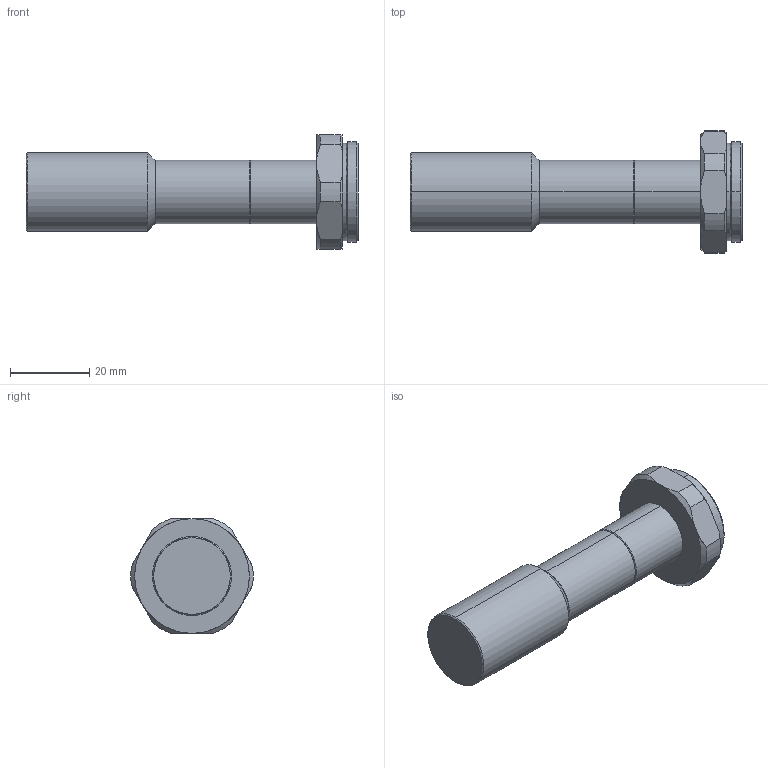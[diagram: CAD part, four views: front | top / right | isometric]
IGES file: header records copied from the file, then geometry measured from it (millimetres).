
Start section: SolidWorks IGES file using analytic representation for surfaces
Global section: file name: C:\IGES\TS-APT08X65_Drawing_M0250D-A00100.IGS; native system: SolidWorks 2021; preprocessor: SolidWorks 2021; author: Chishima_vst; date: 230419.114245; units: millimetre
Bounding box: 83.97 x 30.95 x 29 mm (x, y, z)
Surface area: 6604.4 mm2 (no closed solid volume)
Topology: 0 solids, 0 shells, 53 faces, 502 edges, 502 vertices
Faces by surface type: revolution 42, bspline 11
